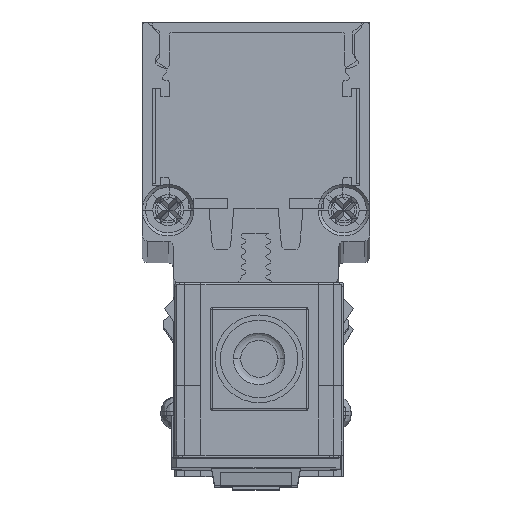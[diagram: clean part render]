
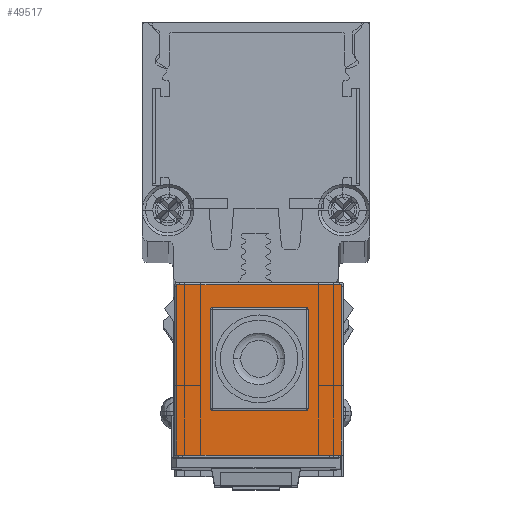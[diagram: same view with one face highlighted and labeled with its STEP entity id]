
A CAD part, top view. The second image highlights one B-rep face of the part: STEP entity #49517.
In plain terms, the highlighted planar face has unit normal (0, 0, 1) as drawn and (-1, 0, 0) by its records, which use the part's own axes.
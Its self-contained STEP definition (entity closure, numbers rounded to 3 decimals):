
#600 = CARTESIAN_POINT ( 'NONE',  ( -6.5, -7.95, 16.7 ) ) ;
#1294 = CARTESIAN_POINT ( 'NONE',  ( -6.5, 4.75, 12.2 ) ) ;
#1651 = DIRECTION ( 'NONE',  ( 1., 0., 0. ) ) ;
#2095 = ORIENTED_EDGE ( 'NONE', *, *, #2125, .T. ) ;
#2125 = EDGE_CURVE ( 'NONE', #73061, #35209, #13727, .T. ) ;
#2522 = ORIENTED_EDGE ( 'NONE', *, *, #9914, .F. ) ;
#4723 = DIRECTION ( 'NONE',  ( 0., 0., -1. ) ) ;
#4790 = AXIS2_PLACEMENT_3D ( 'NONE', #68526, #33637, #74404 ) ;
#7883 = AXIS2_PLACEMENT_3D ( 'NONE', #71502, #1651, #42428 ) ;
#7960 = LINE ( 'NONE', #68697, #37154 ) ;
#8301 = CARTESIAN_POINT ( 'NONE',  ( -6.5, 4.75, 12.4 ) ) ;
#9632 = VECTOR ( 'NONE', #64615, 1000. ) ;
#9914 = EDGE_CURVE ( 'NONE', #68489, #38980, #69697, .T. ) ;
#11169 = EDGE_CURVE ( 'NONE', #68489, #43475, #21009, .T. ) ;
#13642 = EDGE_CURVE ( 'NONE', #47366, #68018, #42507, .T. ) ;
#13727 = LINE ( 'NONE', #25761, #25612 ) ;
#14171 = DIRECTION ( 'NONE',  ( 1., 0., 0. ) ) ;
#14383 = CARTESIAN_POINT ( 'NONE',  ( -6.5, -4.75, 2.4 ) ) ;
#15318 = EDGE_CURVE ( 'NONE', #44393, #43475, #46897, .T. ) ;
#16695 = ORIENTED_EDGE ( 'NONE', *, *, #11169, .T. ) ;
#17622 = AXIS2_PLACEMENT_3D ( 'NONE', #55333, #20421, #61224 ) ;
#19153 = VECTOR ( 'NONE', #55246, 1000. ) ;
#19426 = DIRECTION ( 'NONE',  ( 0., -1., 0. ) ) ;
#19706 = ORIENTED_EDGE ( 'NONE', *, *, #48433, .T. ) ;
#20260 = DIRECTION ( 'NONE',  ( 0., 0., 1. ) ) ;
#20342 = CARTESIAN_POINT ( 'NONE',  ( -6.5, 8.15, 16.7 ) ) ;
#20421 = DIRECTION ( 'NONE',  ( 1., 0., 0. ) ) ;
#20799 = ORIENTED_EDGE ( 'NONE', *, *, #24801, .F. ) ;
#20824 = CARTESIAN_POINT ( 'NONE',  ( -6.5, -7.95, 0.2 ) ) ;
#20911 = AXIS2_PLACEMENT_3D ( 'NONE', #66488, #31568, #72365 ) ;
#21009 = CIRCLE ( 'NONE', #20911, 0.2 ) ;
#21260 = EDGE_CURVE ( 'NONE', #30172, #26971, #61182, .T. ) ;
#23541 = CARTESIAN_POINT ( 'NONE',  ( -6.5, 7.95, 16.7 ) ) ;
#24184 = CARTESIAN_POINT ( 'NONE',  ( -6.5, 4.55, 2.4 ) ) ;
#24801 = EDGE_CURVE ( 'NONE', #71575, #26971, #7960, .T. ) ;
#24865 = PLANE ( 'NONE',  #7883 ) ;
#25612 = VECTOR ( 'NONE', #60663, 1000. ) ;
#25761 = CARTESIAN_POINT ( 'NONE',  ( -6.5, 7.95, 16.7 ) ) ;
#26647 = FACE_BOUND ( 'NONE', #28841, .T. ) ;
#26971 = VERTEX_POINT ( 'NONE', #75106 ) ;
#27838 = EDGE_CURVE ( 'NONE', #30172, #61697, #45766, .T. ) ;
#28841 = EDGE_LOOP ( 'NONE', ( #2522, #16695, #53904, #53333, #72745, #64481, #20799, #19706 ) ) ;
#29386 = CARTESIAN_POINT ( 'NONE',  ( -6.5, -7.95, 16.7 ) ) ;
#29753 = CIRCLE ( 'NONE', #4790, 0.2 ) ;
#30172 = VERTEX_POINT ( 'NONE', #24184 ) ;
#31121 = CARTESIAN_POINT ( 'NONE',  ( -6.5, 4.75, 2.4 ) ) ;
#31354 = CARTESIAN_POINT ( 'NONE',  ( -6.5, 7.95, 0.2 ) ) ;
#31568 = DIRECTION ( 'NONE',  ( 1., 0., 0. ) ) ;
#31648 = CIRCLE ( 'NONE', #17622, 0.2 ) ;
#33637 = DIRECTION ( 'NONE',  ( 1., 0., 0. ) ) ;
#34676 = CARTESIAN_POINT ( 'NONE',  ( -6.5, -4.55, 12.4 ) ) ;
#35209 = VERTEX_POINT ( 'NONE', #31354 ) ;
#35443 = EDGE_CURVE ( 'NONE', #44393, #61697, #29753, .T. ) ;
#36461 = LINE ( 'NONE', #20342, #19153 ) ;
#37154 = VECTOR ( 'NONE', #4723, 1000. ) ;
#38980 = VERTEX_POINT ( 'NONE', #64507 ) ;
#42146 = FACE_OUTER_BOUND ( 'NONE', #46882, .T. ) ;
#42350 = CARTESIAN_POINT ( 'NONE',  ( -6.5, -4.75, 2.6 ) ) ;
#42428 = DIRECTION ( 'NONE',  ( 0., 1., 0. ) ) ;
#42507 = LINE ( 'NONE', #600, #9632 ) ;
#43475 = VERTEX_POINT ( 'NONE', #47733 ) ;
#43949 = VECTOR ( 'NONE', #19426, 1000. ) ;
#44393 = VERTEX_POINT ( 'NONE', #42350 ) ;
#45766 = LINE ( 'NONE', #31121, #43949 ) ;
#46270 = VECTOR ( 'NONE', #61764, 1000. ) ;
#46845 = EDGE_CURVE ( 'NONE', #73061, #68018, #36461, .T. ) ;
#46882 = EDGE_LOOP ( 'NONE', ( #2095, #62687, #69072, #52043 ) ) ;
#46897 = LINE ( 'NONE', #14383, #60603 ) ;
#47366 = VERTEX_POINT ( 'NONE', #20824 ) ;
#47733 = CARTESIAN_POINT ( 'NONE',  ( -6.5, -4.75, 12.2 ) ) ;
#48433 = EDGE_CURVE ( 'NONE', #71575, #38980, #31648, .T. ) ;
#49098 = CARTESIAN_POINT ( 'NONE',  ( -6.5, 4.55, 2.6 ) ) ;
#49517 = ADVANCED_FACE ( 'NONE', ( #42146, #26647 ), #24865, .F. ) ;
#52043 = ORIENTED_EDGE ( 'NONE', *, *, #46845, .F. ) ;
#53333 = ORIENTED_EDGE ( 'NONE', *, *, #35443, .T. ) ;
#53904 = ORIENTED_EDGE ( 'NONE', *, *, #15318, .F. ) ;
#54946 = DIRECTION ( 'NONE',  ( 0., 1., 0. ) ) ;
#55123 = CARTESIAN_POINT ( 'NONE',  ( -6.5, -4.55, 2.4 ) ) ;
#55246 = DIRECTION ( 'NONE',  ( 0., -1., 0. ) ) ;
#55333 = CARTESIAN_POINT ( 'NONE',  ( -6.5, 4.55, 12.2 ) ) ;
#55889 = CARTESIAN_POINT ( 'NONE',  ( -6.5, 8.15, 0.2 ) ) ;
#60603 = VECTOR ( 'NONE', #20260, 1000. ) ;
#60663 = DIRECTION ( 'NONE',  ( 0., 0., -1. ) ) ;
#61182 = CIRCLE ( 'NONE', #74923, 0.2 ) ;
#61224 = DIRECTION ( 'NONE',  ( 0., 1., 0. ) ) ;
#61697 = VERTEX_POINT ( 'NONE', #55123 ) ;
#61764 = DIRECTION ( 'NONE',  ( 0., -1., 0. ) ) ;
#62687 = ORIENTED_EDGE ( 'NONE', *, *, #74144, .T. ) ;
#64481 = ORIENTED_EDGE ( 'NONE', *, *, #21260, .T. ) ;
#64507 = CARTESIAN_POINT ( 'NONE',  ( -6.5, 4.55, 12.4 ) ) ;
#64615 = DIRECTION ( 'NONE',  ( 0., 0., 1. ) ) ;
#65450 = LINE ( 'NONE', #55889, #46270 ) ;
#66488 = CARTESIAN_POINT ( 'NONE',  ( -6.5, -4.55, 12.2 ) ) ;
#67879 = VECTOR ( 'NONE', #72303, 1000. ) ;
#68018 = VERTEX_POINT ( 'NONE', #29386 ) ;
#68489 = VERTEX_POINT ( 'NONE', #34676 ) ;
#68526 = CARTESIAN_POINT ( 'NONE',  ( -6.5, -4.55, 2.6 ) ) ;
#68697 = CARTESIAN_POINT ( 'NONE',  ( -6.5, 4.75, 2.4 ) ) ;
#69072 = ORIENTED_EDGE ( 'NONE', *, *, #13642, .T. ) ;
#69697 = LINE ( 'NONE', #8301, #67879 ) ;
#71502 = CARTESIAN_POINT ( 'NONE',  ( -6.5, 8.15, 16.7 ) ) ;
#71575 = VERTEX_POINT ( 'NONE', #1294 ) ;
#72303 = DIRECTION ( 'NONE',  ( 0., 1., 0. ) ) ;
#72365 = DIRECTION ( 'NONE',  ( 0., 1., 0. ) ) ;
#72745 = ORIENTED_EDGE ( 'NONE', *, *, #27838, .F. ) ;
#73061 = VERTEX_POINT ( 'NONE', #23541 ) ;
#74144 = EDGE_CURVE ( 'NONE', #35209, #47366, #65450, .T. ) ;
#74404 = DIRECTION ( 'NONE',  ( 0., 1., 0. ) ) ;
#74923 = AXIS2_PLACEMENT_3D ( 'NONE', #49098, #14171, #54946 ) ;
#75106 = CARTESIAN_POINT ( 'NONE',  ( -6.5, 4.75, 2.6 ) ) ;
